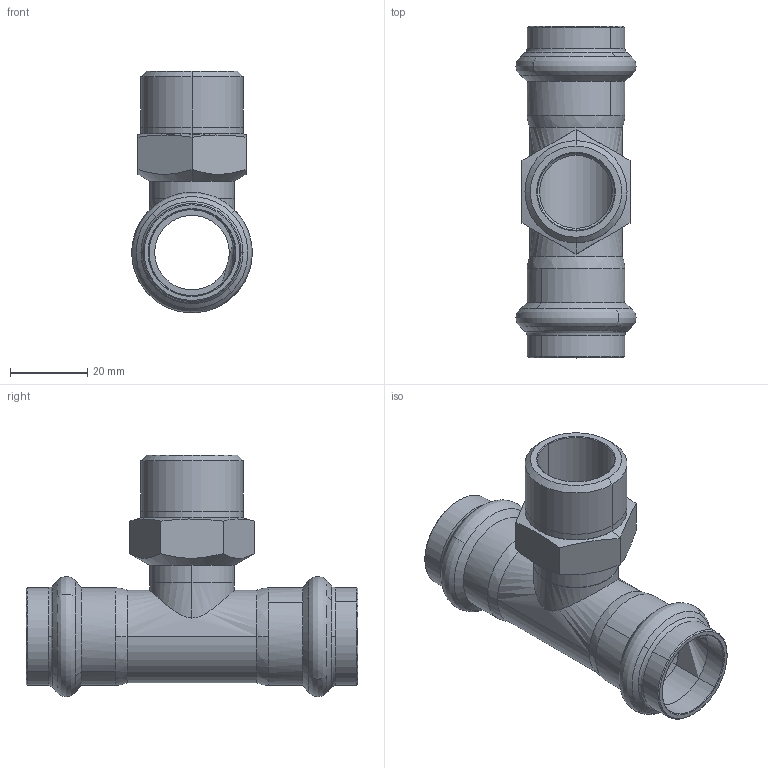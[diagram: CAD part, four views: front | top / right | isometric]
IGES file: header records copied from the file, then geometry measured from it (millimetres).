
Start section: Elysium IGES Interface
Global section: file name: C:\Users\Wallenburg\Desktop\3d modellen sudo\S-Pr VP\SP6132GV\6132GVW223422.igs; native system: CoCreate Modeling 17.00A  17-Jun-2010; preprocessor: CoCreate IGES_3D V2.2; author: Unknown; organization: Unknown; date: 20130123.160858; units: millimetre
Bounding box: 31.18 x 86.01 x 62.59 mm (x, y, z)
Volume: 20404.2 mm3; surface area: 18989.4 mm2
Topology: 1 solids, 1 shells, 114 faces, 282 edges, 172 vertices
Faces by surface type: bspline 114
